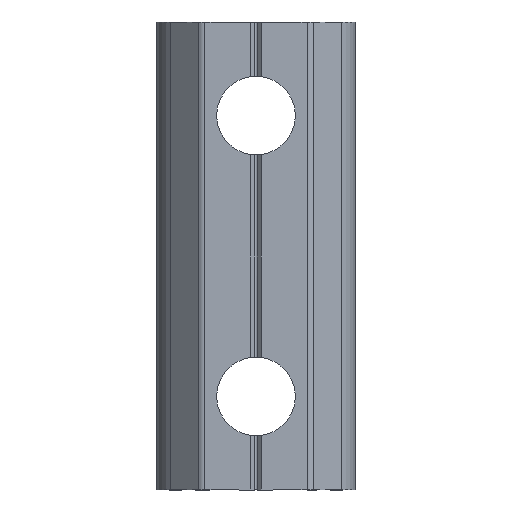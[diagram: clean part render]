
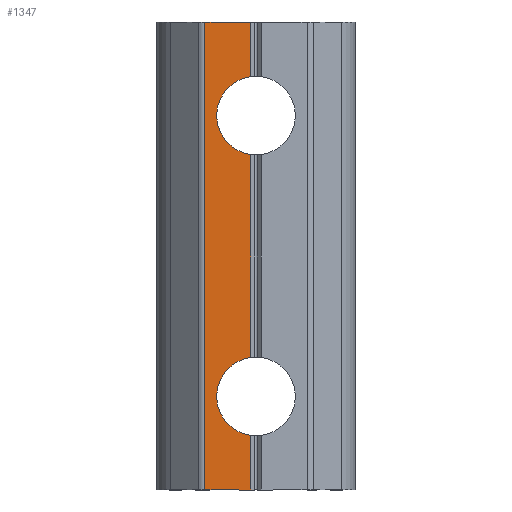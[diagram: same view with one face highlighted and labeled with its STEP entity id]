
A CAD part, front view. The second image highlights one B-rep face of the part: STEP entity #1347.
In plain terms, the highlighted planar face has unit normal (0, -1, 0).
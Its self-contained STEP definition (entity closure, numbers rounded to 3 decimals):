
#18 = CARTESIAN_POINT ( 'NONE',  ( -0.291, 0., 5.42 ) ) ;
#29 = ORIENTED_EDGE ( 'NONE', *, *, #399, .T. ) ;
#51 = VECTOR ( 'NONE', #879, 1000. ) ;
#115 = FACE_OUTER_BOUND ( 'NONE', #1562, .T. ) ;
#173 = CARTESIAN_POINT ( 'NONE',  ( -0.291, 0., 12.5 ) ) ;
#184 = LINE ( 'NONE', #1053, #1724 ) ;
#204 = DIRECTION ( 'NONE',  ( 1., 0., 0. ) ) ;
#221 = AXIS2_PLACEMENT_3D ( 'NONE', #442, #448, #464 ) ;
#248 = ORIENTED_EDGE ( 'NONE', *, *, #1868, .T. ) ;
#289 = EDGE_CURVE ( 'NONE', #312, #995, #184, .T. ) ;
#311 = CARTESIAN_POINT ( 'NONE',  ( -0.291, 0., -12.5 ) ) ;
#312 = VERTEX_POINT ( 'NONE', #917 ) ;
#316 = CARTESIAN_POINT ( 'NONE',  ( -0.291, 0., -12.5 ) ) ;
#331 = ORIENTED_EDGE ( 'NONE', *, *, #289, .T. ) ;
#354 = VERTEX_POINT ( 'NONE', #173 ) ;
#361 = PLANE ( 'NONE',  #761 ) ;
#368 = CARTESIAN_POINT ( 'NONE',  ( 0., 0., 7.5 ) ) ;
#399 = EDGE_CURVE ( 'NONE', #1623, #354, #477, .T. ) ;
#429 = ORIENTED_EDGE ( 'NONE', *, *, #1735, .T. ) ;
#442 = CARTESIAN_POINT ( 'NONE',  ( 0., 0., -7.5 ) ) ;
#448 = DIRECTION ( 'NONE',  ( 0., -1., 0. ) ) ;
#464 = DIRECTION ( 'NONE',  ( 0., 0., -1. ) ) ;
#477 = LINE ( 'NONE', #316, #51 ) ;
#484 = DIRECTION ( 'NONE',  ( 0., 0., 1. ) ) ;
#488 = EDGE_CURVE ( 'NONE', #1623, #747, #1104, .T. ) ;
#496 = VECTOR ( 'NONE', #484, 1000. ) ;
#611 = LINE ( 'NONE', #1875, #963 ) ;
#631 = VERTEX_POINT ( 'NONE', #1662 ) ;
#747 = VERTEX_POINT ( 'NONE', #18 ) ;
#761 = AXIS2_PLACEMENT_3D ( 'NONE', #1091, #972, #204 ) ;
#763 = CARTESIAN_POINT ( 'NONE',  ( -0.291, 0., -12.5 ) ) ;
#775 = VERTEX_POINT ( 'NONE', #311 ) ;
#778 = EDGE_CURVE ( 'NONE', #631, #985, #1548, .T. ) ;
#850 = ORIENTED_EDGE ( 'NONE', *, *, #1522, .T. ) ;
#879 = DIRECTION ( 'NONE',  ( 0., 0., 1. ) ) ;
#915 = VECTOR ( 'NONE', #1915, 1000. ) ;
#917 = CARTESIAN_POINT ( 'NONE',  ( -2.728, 0., 12.5 ) ) ;
#953 = DIRECTION ( 'NONE',  ( -1., 0., 0. ) ) ;
#963 = VECTOR ( 'NONE', #953, 1000. ) ;
#972 = DIRECTION ( 'NONE',  ( 0., -1., 0. ) ) ;
#985 = VERTEX_POINT ( 'NONE', #1447 ) ;
#995 = VERTEX_POINT ( 'NONE', #1245 ) ;
#1033 = AXIS2_PLACEMENT_3D ( 'NONE', #368, #1640, #1540 ) ;
#1053 = CARTESIAN_POINT ( 'NONE',  ( -2.728, 0., 12.5 ) ) ;
#1091 = CARTESIAN_POINT ( 'NONE',  ( 2.936, 0., 12.5 ) ) ;
#1104 = CIRCLE ( 'NONE', #1033, 2.1 ) ;
#1110 = DIRECTION ( 'NONE',  ( 0., 0., -1. ) ) ;
#1112 = EDGE_CURVE ( 'NONE', #775, #995, #611, .T. ) ;
#1125 = ORIENTED_EDGE ( 'NONE', *, *, #778, .F. ) ;
#1152 = CARTESIAN_POINT ( 'NONE',  ( -0.291, 0., 9.58 ) ) ;
#1162 = CARTESIAN_POINT ( 'NONE',  ( -0.291, 0., -12.5 ) ) ;
#1227 = ORIENTED_EDGE ( 'NONE', *, *, #1112, .F. ) ;
#1245 = CARTESIAN_POINT ( 'NONE',  ( -2.728, 0., -12.5 ) ) ;
#1287 = LINE ( 'NONE', #763, #496 ) ;
#1327 = ORIENTED_EDGE ( 'NONE', *, *, #488, .F. ) ;
#1345 = DIRECTION ( 'NONE',  ( -1., 0., 0. ) ) ;
#1347 = ADVANCED_FACE ( 'NONE', ( #115 ), #361, .T. ) ;
#1447 = CARTESIAN_POINT ( 'NONE',  ( -0.291, 0., -9.58 ) ) ;
#1476 = CARTESIAN_POINT ( 'NONE',  ( 2.936, 0., 12.5 ) ) ;
#1506 = VECTOR ( 'NONE', #1345, 1000. ) ;
#1522 = EDGE_CURVE ( 'NONE', #775, #985, #1723, .T. ) ;
#1540 = DIRECTION ( 'NONE',  ( 0., 0., -1. ) ) ;
#1548 = CIRCLE ( 'NONE', #221, 2.1 ) ;
#1562 = EDGE_LOOP ( 'NONE', ( #248, #331, #1227, #850, #1125, #429, #1327, #29 ) ) ;
#1623 = VERTEX_POINT ( 'NONE', #1152 ) ;
#1640 = DIRECTION ( 'NONE',  ( 0., -1., 0. ) ) ;
#1662 = CARTESIAN_POINT ( 'NONE',  ( -0.291, 0., -5.42 ) ) ;
#1723 = LINE ( 'NONE', #1162, #915 ) ;
#1724 = VECTOR ( 'NONE', #1110, 1000. ) ;
#1735 = EDGE_CURVE ( 'NONE', #631, #747, #1287, .T. ) ;
#1868 = EDGE_CURVE ( 'NONE', #354, #312, #1899, .T. ) ;
#1875 = CARTESIAN_POINT ( 'NONE',  ( 2.936, 0., -12.5 ) ) ;
#1899 = LINE ( 'NONE', #1476, #1506 ) ;
#1915 = DIRECTION ( 'NONE',  ( 0., 0., 1. ) ) ;
